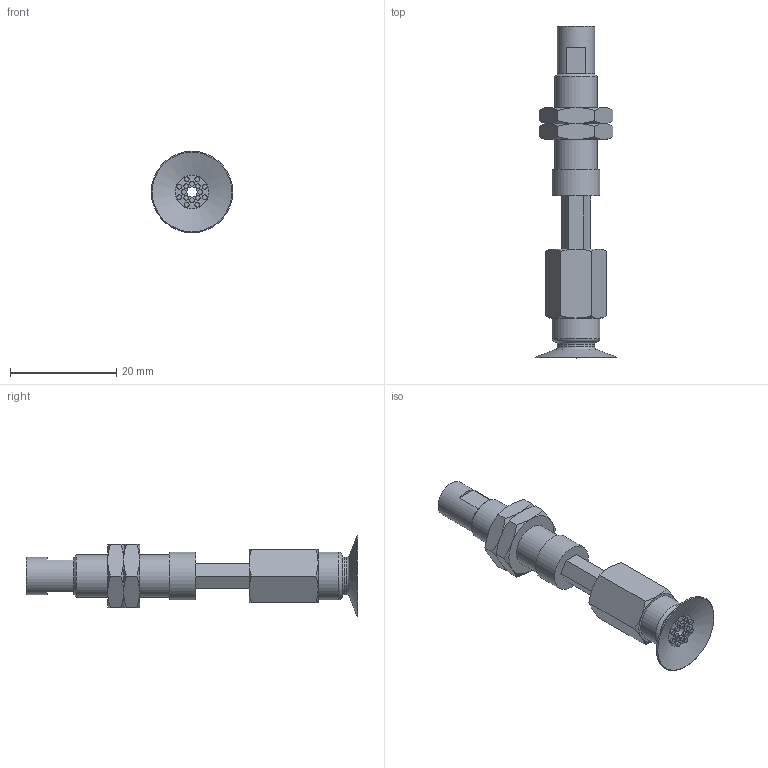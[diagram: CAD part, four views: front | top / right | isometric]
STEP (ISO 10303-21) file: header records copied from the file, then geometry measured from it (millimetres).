
FILE_DESCRIPTION(('STEP AP203'),'1');
FILE_NAME('.stp','2025-08-12T08:18:13',(' '),(' '),'Spatial InterOp 3D',' ',' ');
FILE_SCHEMA(('CONFIG_CONTROL_DESIGN'));
Length unit declared in the file: millimetre
Products named in the file (6): BNABPATH-15A-10-※; NAPATH-10A-10--F; Nut-10A-S; BPAG-15A-※; NAPATH-10A-10--M; ADAPTER
Assembly tree (6 placements, depth 2):
  BNABPATH-15A-10-※
    NAPATH-10A-10--F
    Nut-10A-S  x2
    BPAG-15A-※
    NAPATH-10A-10--M
    ADAPTER
Bounding box: 15.3 x 62.5 x 15.3 mm (x, y, z)
Volume: 3523.3 mm3; surface area: 4327.5 mm2
Topology: 6 solids, 6 shells, 154 faces, 311 edges, 192 vertices
Faces by surface type: plane 69, cone 45, cylinder 31, torus 9
Full cylindrical faces by diameter (mm): 0.9 x16, 2 x3, 4 x2, 4.134 x1, 6 x2, 7 x2, 7.188 x2, 8 x1, 9 x2
Entity records: 3600 total; most frequent: CARTESIAN_POINT 790, DIRECTION 538, ORIENTED_EDGE 416, AXIS2_PLACEMENT_3D 240, EDGE_LOOP 210, EDGE_CURVE 208, FACE_OUTER_BOUND 170, VERTEX_POINT 156
